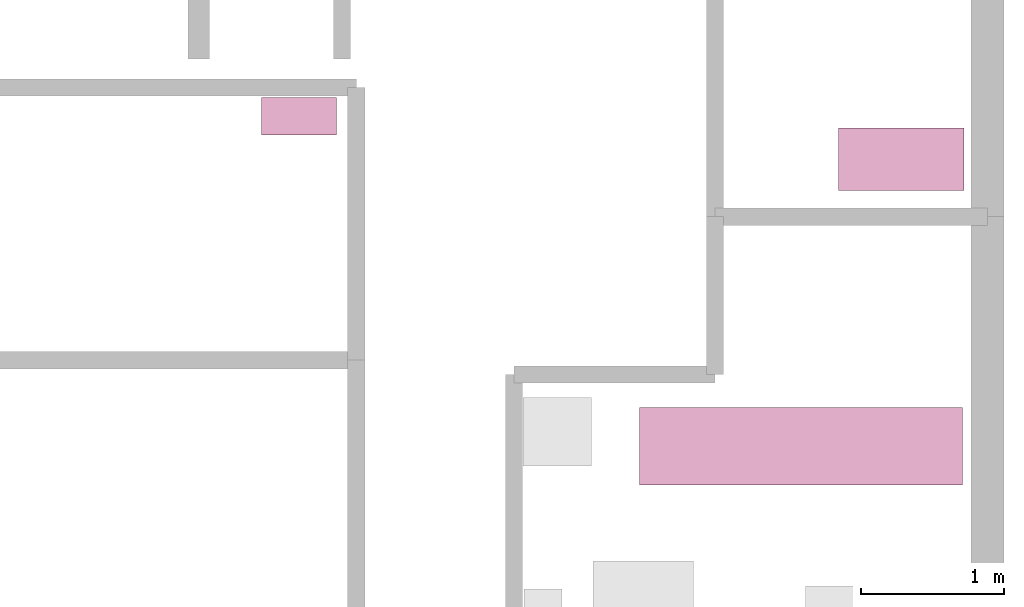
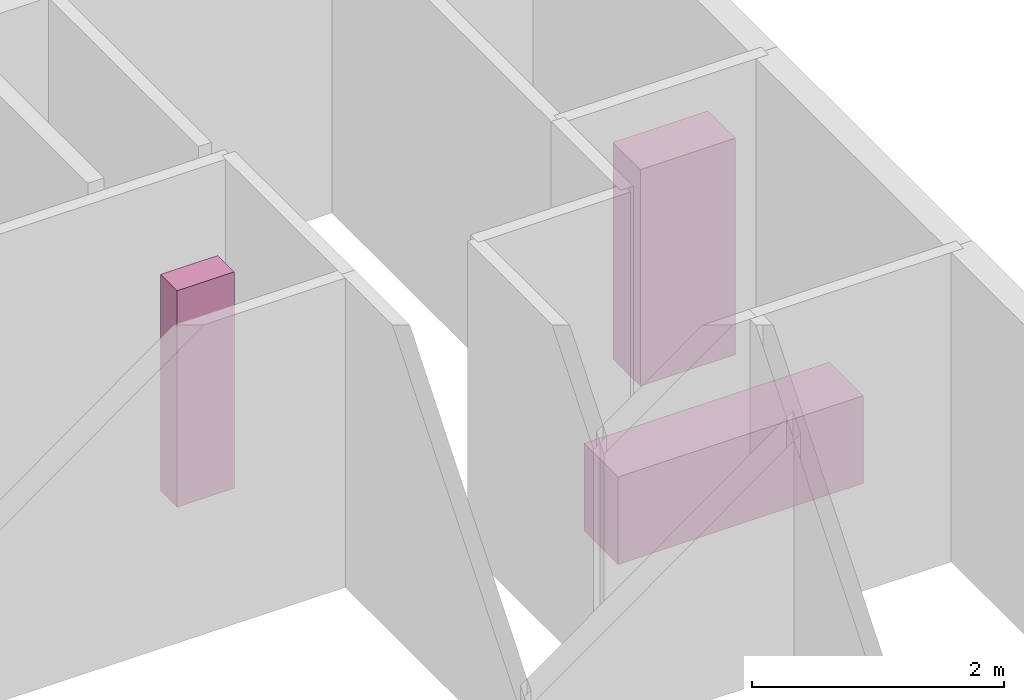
# One storey, part 3 of 3: 3 furniture elements.
"""IFC4 building model written with IfcOpenShell, lengths in metres."""

from ifc_helpers import new_model, si_unit, frame, origin, place, context, project, spatial, polyline, outline, extrude, material, element, save


model = new_model("IFC4")

# Units and contexts
model_context = context("Model", 3, precision=1e-05, world=origin())
ifc_project = project(units=[si_unit("LENGTHUNIT", "METRE")], contexts=[model_context])

# Site, building, storey
site_placement = place(None, origin())
site = spatial("IfcSite", under=ifc_project, at=site_placement, Name="Site")
building_placement = place(site_placement, origin())
building = spatial("IfcBuilding", under=site, at=building_placement, Name="Structure")
storey_placement = place(building_placement, origin())
storey = spatial("IfcBuildingStorey", under=building, at=storey_placement, Name="Ground Floor")

# Furniture
ifc_material_1 = material(Name="Wood")
furniture_1_placement = place(storey_placement, frame((9.2, 6.5, 0.0)))
element("IfcFurniture", 1, at=furniture_1_placement, inside=storey, material=ifc_material_1, Name="wardrobe_tr", PredefinedType="SHELF", context=model_context, shape_type="SweptSolid", body=[
    extrude(outline(polyline([(-0.4374, -0.2187), (0.4374, -0.2187), (0.4374, 0.2187), (-0.4374, 0.2187), (-0.4374, -0.2187)])), origin(), (0.0, 0.0, 1.0), 2.1),
])
ifc_material_2 = material(Name="Wood")
furniture_2_placement = place(storey_placement, frame((5.0, 6.8, 0.0)))
element("IfcFurniture", 2, at=furniture_2_placement, inside=storey, material=ifc_material_2, Name="wardrobe_ml", PredefinedType="SHELF", context=model_context, shape_type="SweptSolid", body=[
    extrude(outline(polyline([(-0.26244, -0.13122), (0.26244, -0.13122), (0.26244, 0.13122), (-0.26244, 0.13122), (-0.26244, -0.13122)])), origin(), (0.0, 0.0, 1.0), 2.1),
])
ifc_material_3 = material(Name="Granite")
furniture_3_placement = place(storey_placement, frame((8.5, 4.5, 0.0)))
element("IfcFurniture", 3, at=furniture_3_placement, inside=storey, material=ifc_material_3, Name="kitchen_counter", PredefinedType="SHELF", context=model_context, shape_type="SweptSolid", body=[
    extrude(outline(polyline([(-1.125, -0.27), (1.125, -0.27), (1.125, 0.27), (-1.125, 0.27), (-1.125, -0.27)])), origin(), (0.0, 0.0, 1.0), 0.85),
])

save(model, "model.ifc")
